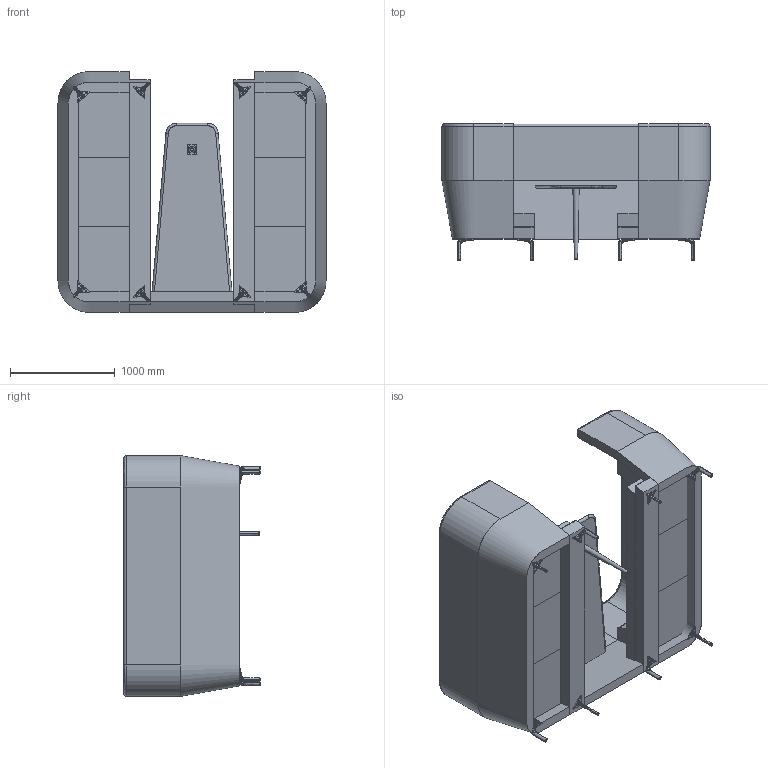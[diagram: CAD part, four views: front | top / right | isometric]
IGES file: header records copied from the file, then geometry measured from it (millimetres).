
Start section: SolidWorks IGES file using analytic representation for surfaces
Global section: file name: P:\3D CAD BLOCKS\ENTENTE\ENT - 6S - BOOTH\ENT - 6S - BOOTH.IGS; native system: SolidWorks 2012; preprocessor: SolidWorks 2012; author: adam; date: 140220.175909; units: millimetre
Bounding box: 2560 x 1301.5 x 2300 mm (x, y, z)
Surface area: 37165726.4 mm2 (no closed solid volume)
Topology: 0 solids, 0 shells, 1253 faces, 16218 edges, 16210 vertices
Faces by surface type: bspline 714, revolution 539
